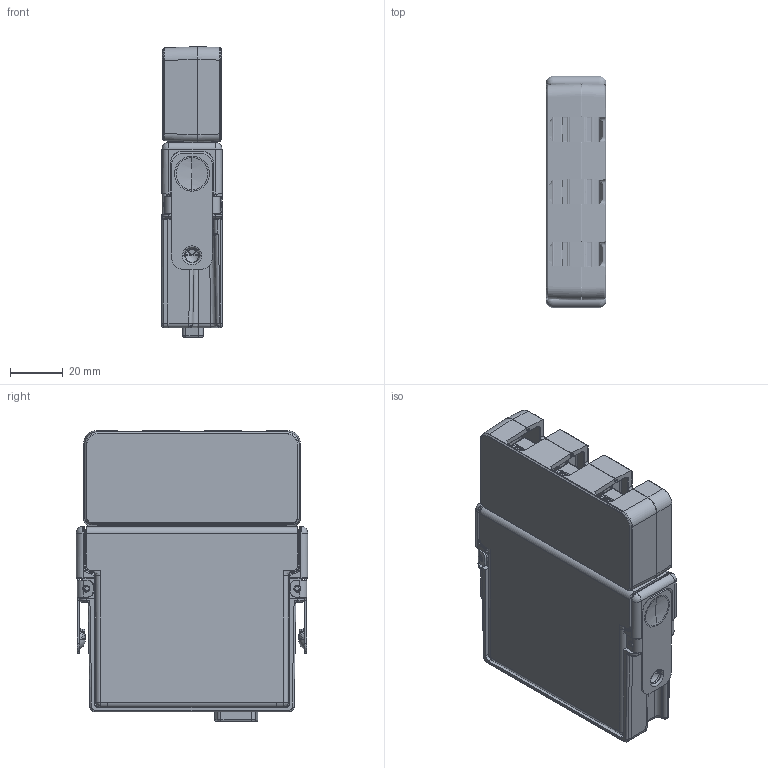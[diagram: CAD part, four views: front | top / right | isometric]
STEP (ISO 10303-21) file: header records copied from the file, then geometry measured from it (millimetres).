
FILE_DESCRIPTION((''),'2;1');
FILE_NAME('CU_NI-9246_9247','2015-05-22T',('dkendric'),(''),'PRO/ENGINEER BY PARAMETRIC TECHNOLOGY CORPORATION, 2014000','PRO/ENGINEER BY PARAMETRIC TECHNOLOGY CORPORATION, 2014000','');
FILE_SCHEMA(('CONFIG_CONTROL_DESIGN'));
Products named in the file (1): CU_NI-9246_9247
Bounding box: 22.86 x 88.11 x 110.71 mm (x, y, z)
Volume: 89857.3 mm3; surface area: 75146.7 mm2
Topology: 15 solids, 15 shells, 4897 faces, 11307 edges, 6454 vertices
Faces by surface type: cylinder 1786, plane 1257, bspline 1097, torus 343, cone 266, sphere 142, extrusion 6
Entity records: 220477 total; most frequent: CARTESIAN_POINT 119261, ORIENTED_EDGE 22442, DIRECTION 18929, EDGE_CURVE 11221, AXIS2_PLACEMENT_3D 6959, VERTEX_POINT 6492, EDGE_LOOP 5027, VECTOR 5011
